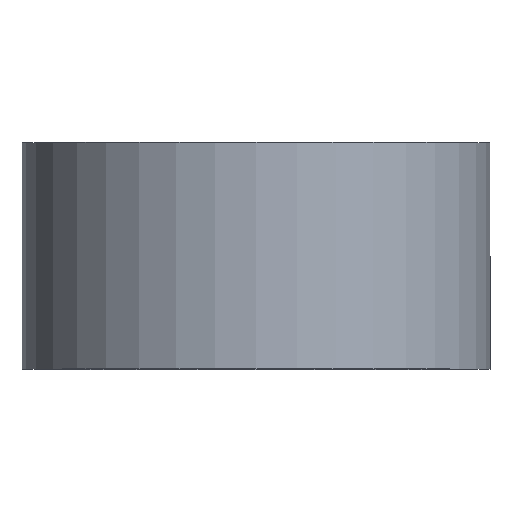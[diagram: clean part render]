
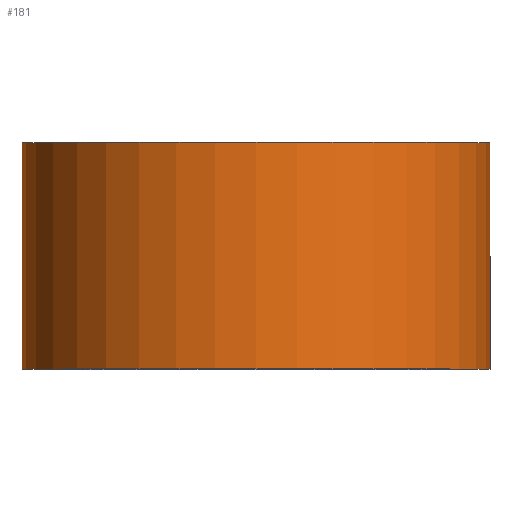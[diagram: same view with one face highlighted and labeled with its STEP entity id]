
A CAD part, top view. The second image highlights one B-rep face of the part: STEP entity #181.
In plain terms, the highlighted cylindrical face has radius 31 mm (diameter 62 mm), a partial arc.
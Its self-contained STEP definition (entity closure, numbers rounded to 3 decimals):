
#2 = VECTOR ( 'NONE', #185, 1000. ) ;
#10 = CIRCLE ( 'NONE', #290, 31. ) ;
#11 = VERTEX_POINT ( 'NONE', #115 ) ;
#18 = FACE_OUTER_BOUND ( 'NONE', #264, .T. ) ;
#28 = DIRECTION ( 'NONE',  ( -1., 0., 0. ) ) ;
#40 = LINE ( 'NONE', #258, #2 ) ;
#64 = CIRCLE ( 'NONE', #167, 31. ) ;
#66 = CARTESIAN_POINT ( 'NONE',  ( 31., 0., 0. ) ) ;
#68 = CARTESIAN_POINT ( 'NONE',  ( 0., 0., 0. ) ) ;
#71 = DIRECTION ( 'NONE',  ( -1., 0., 0. ) ) ;
#78 = ORIENTED_EDGE ( 'NONE', *, *, #236, .T. ) ;
#86 = VECTOR ( 'NONE', #250, 1000. ) ;
#98 = DIRECTION ( 'NONE',  ( 0., 1., 0. ) ) ;
#107 = ORIENTED_EDGE ( 'NONE', *, *, #214, .F. ) ;
#111 = ORIENTED_EDGE ( 'NONE', *, *, #241, .T. ) ;
#115 = CARTESIAN_POINT ( 'NONE',  ( 31., 30., 0. ) ) ;
#128 = AXIS2_PLACEMENT_3D ( 'NONE', #68, #298, #71 ) ;
#161 = DIRECTION ( 'NONE',  ( -1., 0., 0. ) ) ;
#167 = AXIS2_PLACEMENT_3D ( 'NONE', #278, #277, #161 ) ;
#169 = VERTEX_POINT ( 'NONE', #179 ) ;
#179 = CARTESIAN_POINT ( 'NONE',  ( -31., 30., 0. ) ) ;
#181 = ADVANCED_FACE ( 'NONE', ( #18 ), #294, .T. ) ;
#185 = DIRECTION ( 'NONE',  ( 0., 1., 0. ) ) ;
#189 = CARTESIAN_POINT ( 'NONE',  ( -31., 0., 0. ) ) ;
#190 = ORIENTED_EDGE ( 'NONE', *, *, #271, .F. ) ;
#203 = LINE ( 'NONE', #66, #86 ) ;
#214 = EDGE_CURVE ( 'NONE', #169, #11, #64, .T. ) ;
#232 = CARTESIAN_POINT ( 'NONE',  ( 31., 0., 0. ) ) ;
#236 = EDGE_CURVE ( 'NONE', #268, #11, #203, .T. ) ;
#241 = EDGE_CURVE ( 'NONE', #260, #268, #10, .T. ) ;
#250 = DIRECTION ( 'NONE',  ( 0., 1., 0. ) ) ;
#258 = CARTESIAN_POINT ( 'NONE',  ( -31., 0., 0. ) ) ;
#260 = VERTEX_POINT ( 'NONE', #189 ) ;
#264 = EDGE_LOOP ( 'NONE', ( #111, #78, #107, #190 ) ) ;
#268 = VERTEX_POINT ( 'NONE', #232 ) ;
#271 = EDGE_CURVE ( 'NONE', #260, #169, #40, .T. ) ;
#277 = DIRECTION ( 'NONE',  ( 0., 1., 0. ) ) ;
#278 = CARTESIAN_POINT ( 'NONE',  ( 0., 30., 0. ) ) ;
#283 = CARTESIAN_POINT ( 'NONE',  ( 0., 0., 0. ) ) ;
#290 = AXIS2_PLACEMENT_3D ( 'NONE', #283, #98, #28 ) ;
#294 = CYLINDRICAL_SURFACE ( 'NONE', #128, 31. ) ;
#298 = DIRECTION ( 'NONE',  ( 0., 1., 0. ) ) ;
